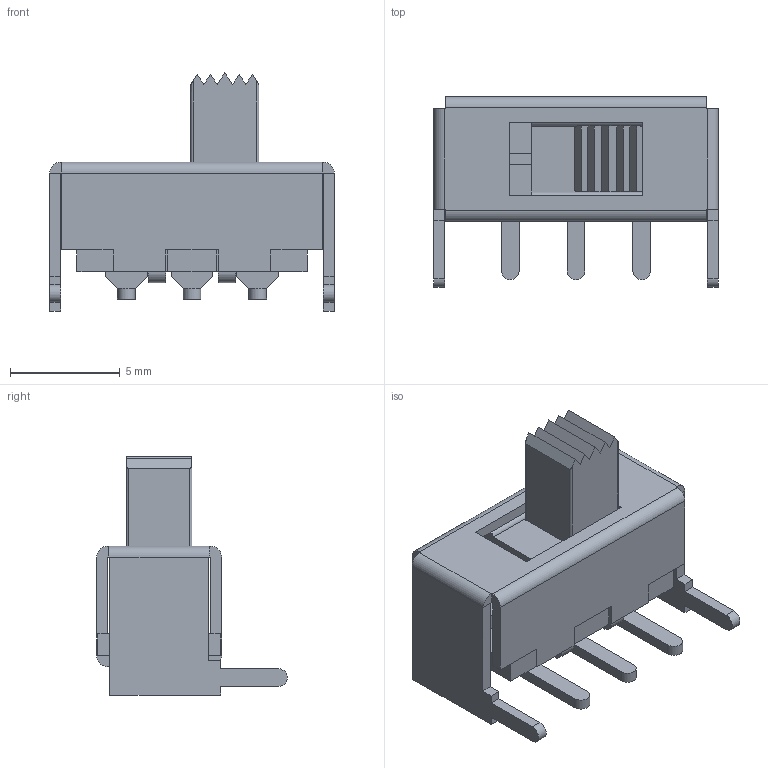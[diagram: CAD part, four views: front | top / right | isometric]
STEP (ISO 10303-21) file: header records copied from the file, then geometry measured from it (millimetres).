
FILE_DESCRIPTION((''),'2;1');
FILE_NAME('SKB-12F23C-G6-NS-T2-6_ASM','2019-10-09T',('Administrator'),(''),'PRO/ENGINEER BY PARAMETRIC TECHNOLOGY CORPORATION, 2010100','PRO/ENGINEER BY PARAMETRIC TECHNOLOGY CORPORATION, 2010100','');
FILE_SCHEMA(('CONFIG_CONTROL_DESIGN','SHAPE_APPEARANCE_LAYERS_GROUPS'));
Length unit declared in the file: millimetre
Products named in the file (5): 10-41203; 15-41202; 12-41205; 11-412FG-6; SKB-12F23C-G6-NS-T2-6_ASM
Assembly tree (4 placements, depth 2):
  SKB-12F23C-G6-NS-T2-6_ASM
    10-41203
    15-41202
    12-41205
    11-412FG-6
Bounding box: 13 x 8.7 x 10.87 mm (x, y, z)
Volume: 285.3 mm3; surface area: 942.4 mm2
Topology: 6 solids, 6 shells, 209 faces, 564 edges, 368 vertices
Faces by surface type: plane 182, cylinder 27
Entity records: 8343 total; most frequent: CARTESIAN_POINT 1172, ORIENTED_EDGE 1128, DIRECTION 1046, PRESENTATION_STYLE_ASSIGNMENT 570, STYLED_ITEM 570, CURVE_STYLE 564, EDGE_CURVE 564, VECTOR 510
